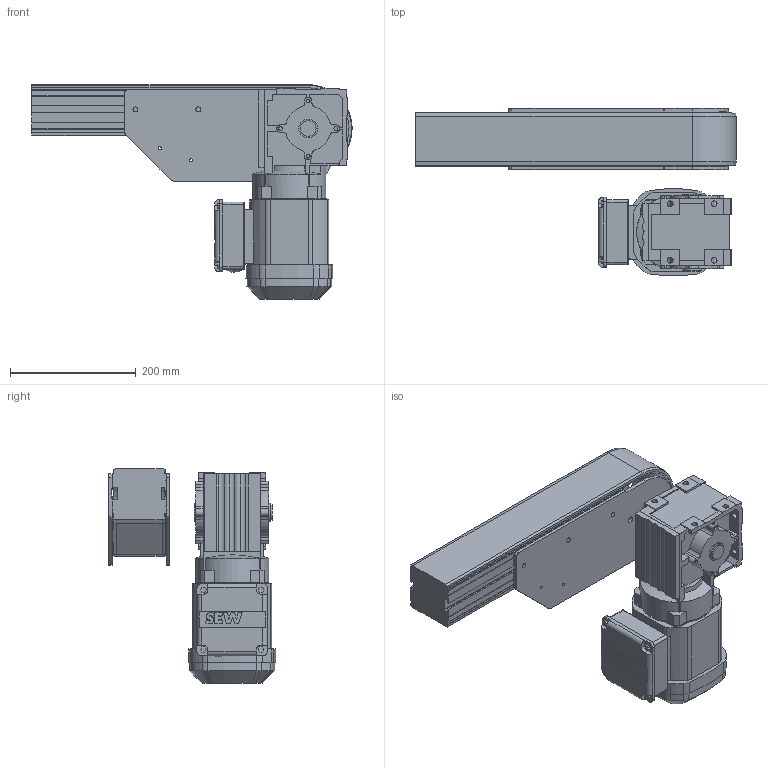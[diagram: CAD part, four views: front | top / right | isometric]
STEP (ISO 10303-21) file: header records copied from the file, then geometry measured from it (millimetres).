
FILE_DESCRIPTION((''),'2;1');
FILE_NAME('C:\Vault Klient\Projekt\Koncept konstruktion\Serie 830 Drivenhet\830-375H.stp','2010-11-08T07:20:54',('Mathias'),(''),'Autodesk Inventor 2011','Autodesk Inventor 2011','');
FILE_SCHEMA(('AUTOMOTIVE_DESIGN { 1 0 10303 214 1 1 1 1 }'));
Length unit declared in the file: millimetre
Products named in the file (1): 830-375H
Bounding box: 509.96 x 266.14 x 342 mm (x, y, z)
Volume: 8366691.8 mm3; surface area: 696622.7 mm2
Topology: 3 solids, 6 shells, 619 faces, 1739 edges, 1144 vertices
Faces by surface type: plane 387, cylinder 198, cone 16, bspline 16, sphere 2
Full cylindrical faces by diameter (mm): 5 x4, 6 x9, 8 x6, 9 x8, 10 x4, 20 x1, 25 x1, 26 x2, 28 x1, 30 x2
Entity records: 21071 total; most frequent: CARTESIAN_POINT 4260, ORIENTED_EDGE 3372, DIRECTION 3302, EDGE_CURVE 1686, VECTOR 1188, LINE 1188, VERTEX_POINT 1134, AXIS2_PLACEMENT_3D 1057
